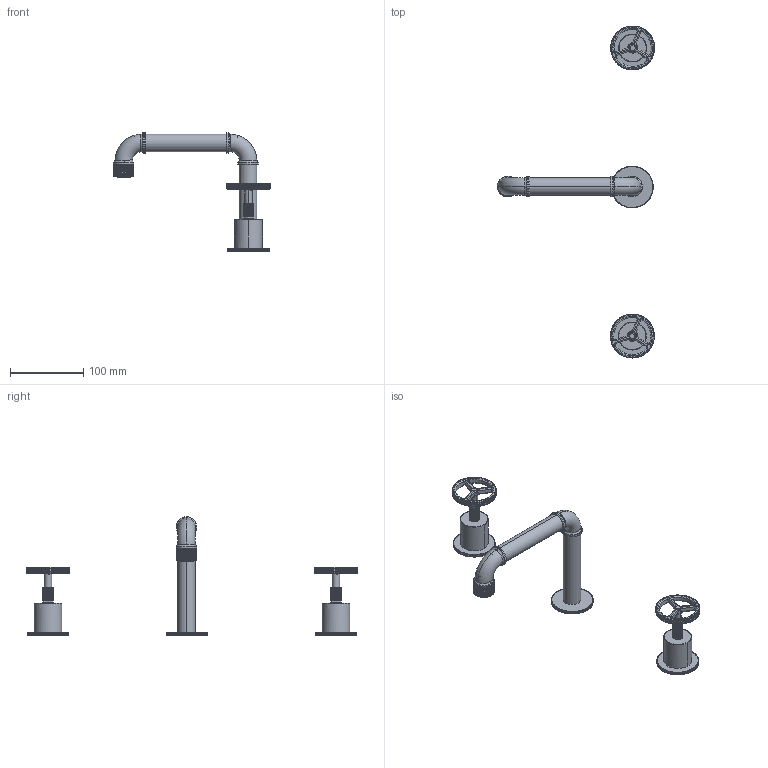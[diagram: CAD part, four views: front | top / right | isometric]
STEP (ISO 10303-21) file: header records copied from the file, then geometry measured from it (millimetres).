
FILE_DESCRIPTION (( 'STEP AP214' ), '1' );
FILE_NAME ('78325510 x architetti.STEP', '2024-11-23T10:35:03', ( '' ), ( '' ), 'SwSTEP 2.0', 'SolidWorks 2020', '' );
FILE_SCHEMA (( 'AUTOMOTIVE_DESIGN' ));
Length unit declared in the file: millimetre
Products named in the file (1): 78325510 x architetti
Bounding box: 214.65 x 453.42 x 162.04 mm (x, y, z)
Volume: 294067.9 mm3; surface area: 80757.8 mm2
Topology: 9 solids, 309 shells, 6717 faces, 16489 edges, 10667 vertices
Faces by surface type: plane 3367, cylinder 1956, bspline 986, torus 215, cone 114, sphere 79
Entity records: 339902 total; most frequent: CARTESIAN_POINT 120549, ORIENTED_EDGE 32962, DIRECTION 27540, EDGE_CURVE 16481, VERTEX_POINT 10667, AXIS2_PLACEMENT_3D 9382, VECTOR 8776, LINE 8776
